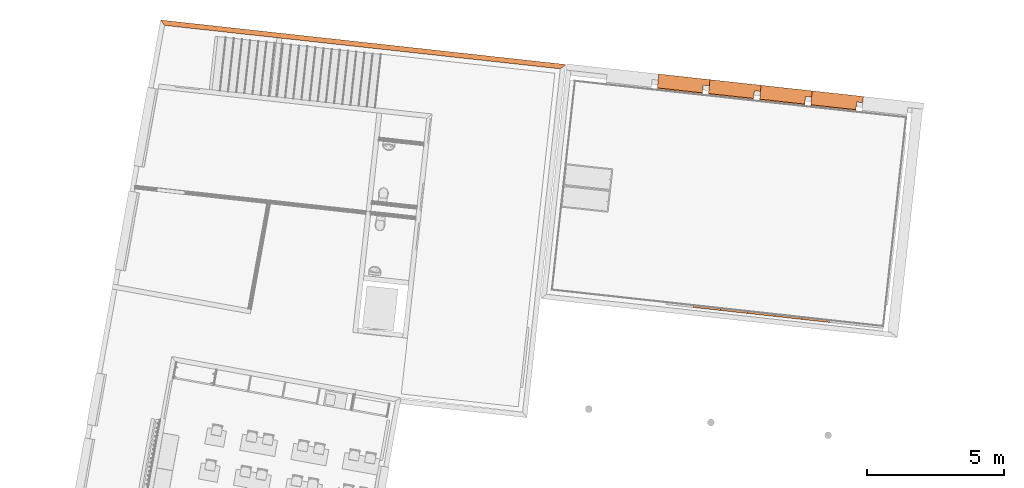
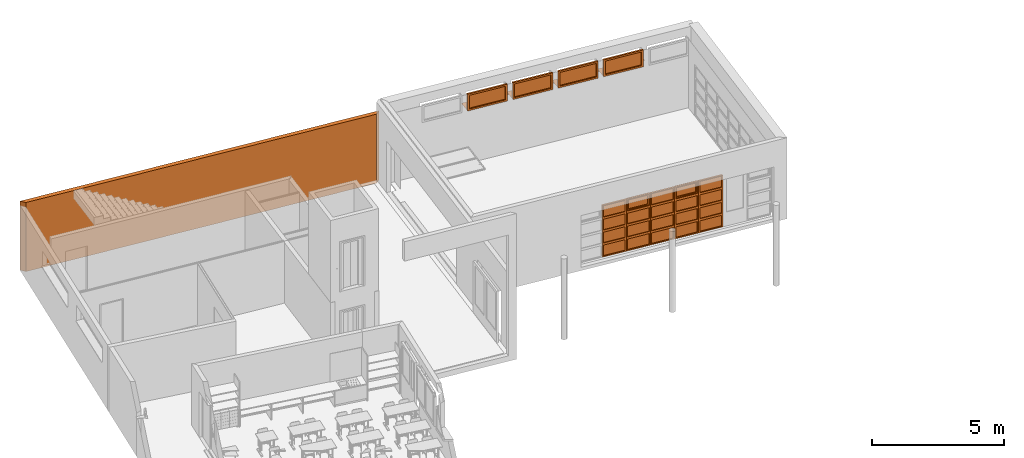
# One storey, part 50 of 79: 10 proxies.
"""IFC2X3 building model written with IfcOpenShell, lengths in metres."""

from ifc_helpers import new_model, entity, si_unit, converted_unit, derived_unit, money_unit, direction, frame, origin_with_axes, place, context, subcontext, project, spatial, polyline, outline, extrude, open_shell, faceted_brep, surface_model, source, transform, mapped, material, type_object, element, save


model = new_model("IFC2X3")

# Units and contexts
model_context = context("Model", 3, precision=1e-05, world=origin_with_axes(), true_north=direction((0.0, 1.0)))
body_context = subcontext(model_context, "Body", "Model", "MODEL_VIEW")
ifc_project = project(units=[si_unit("LENGTHUNIT", "METRE"), si_unit("AREAUNIT", "SQUARE_METRE"), si_unit("VOLUMEUNIT", "CUBIC_METRE"), converted_unit("PLANEANGLEUNIT", "DEGREE", entity("IfcPlaneAngleMeasure", 0.0174532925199), si_unit("PLANEANGLEUNIT", "RADIAN"), dimensions=[0, 0, 0, 0, 0, 0, 0]), money_unit("CHF"), converted_unit("TIMEUNIT", "Year", entity("IfcTimeMeasure", 31556926.0), si_unit("TIMEUNIT", "SECOND"), dimensions=[0, 0, 1, 0, 0, 0, 0]), si_unit("MASSUNIT", "GRAM", prefix="KILO"), si_unit("THERMODYNAMICTEMPERATUREUNIT", "DEGREE_CELSIUS"), si_unit("LUMINOUSINTENSITYUNIT", "LUMEN"), si_unit("ENERGYUNIT", "JOULE", prefix="MEGA"), derived_unit("THERMALCONDUCTANCEUNIT", [(si_unit("POWERUNIT", "WATT"), 1), (si_unit("LENGTHUNIT", "METRE"), -1), (si_unit("THERMODYNAMICTEMPERATUREUNIT", "KELVIN"), -1)]), derived_unit("SPECIFICHEATCAPACITYUNIT", [(si_unit("ENERGYUNIT", "JOULE"), 1), (si_unit("MASSUNIT", "GRAM", prefix="KILO"), -1), (si_unit("THERMODYNAMICTEMPERATUREUNIT", "KELVIN"), -1)]), derived_unit("MASSDENSITYUNIT", [(si_unit("MASSUNIT", "GRAM", prefix="KILO"), 1), (si_unit("VOLUMEUNIT", "CUBIC_METRE"), -1)])], contexts=[model_context])

# Site, building, storey
site_placement = place(None, frame((0.0, 0.0, 0.0), z_axis=(0.0, 0.0, 1.0), x_axis=(-0.177771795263, -0.984071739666, 0.0)))
site = spatial("IfcSite", under=ifc_project, at=site_placement, Name="Site", CompositionType="ELEMENT")
building_placement = place(site_placement, origin_with_axes())
building = spatial("IfcBuilding", under=site, at=building_placement, Name="Bâtiment", CompositionType="ELEMENT")
storey_placement = place(building_placement, origin_with_axes())
storey = spatial("IfcBuildingStorey", under=building, at=storey_placement, Name="RDC", CompositionType="ELEMENT", Elevation=0.0)

# Proxies
ifc_material_1 = material(Name="Matériau de construction IFC")
building_element_proxy_type_1 = type_object("IfcBuildingElementProxyType", Name="Fenêtre variable 21", PredefinedType="NOTDEFINED")
shared_shape_1 = source(origin_with_axes(), body_context, "Body", "SurfaceModel", [
    surface_model("IfcShellBasedSurfaceModel", [(0.0, 0.284, 0.02), (0.0, 0.284, 0.01), (1.66, 0.284, 0.01), (1.66, 0.284, 0.02), (0.0, 0.0, 1.551028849e-05), (-0.22, 0.0, 1.551028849e-05), (-0.22, -0.225, -0.00789473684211), (1.66, -0.225, -0.00789473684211), (-0.22, -0.225, -0.0378947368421), (1.66, -0.225, -0.0378947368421), (-0.22, -0.21, -0.0228947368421), (1.66, -0.21, -0.0228947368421)], [open_shell([[[0, 1, 2, 3]], [[1, 4, 5, 6, 7, 2]], [[8, 9, 7, 6]], [[10, 11, 9, 8]]])]),
    faceted_brep([(0.075, 0.285, 0.705), (0.075, 0.36, 0.705), (0.0, 0.36, 0.705), (0.0, 0.285, 0.705), (0.075, 0.285, 0.075), (0.075, 0.36, 0.075), (0.0, 0.36, 0.075), (0.0, 0.285, 0.075)], [[[0, 1, 2, 3]], [[4, 5, 1, 0]], [[1, 5, 6, 2]], [[3, 2, 6, 7]], [[0, 3, 7, 4]], [[7, 6, 5, 4]]]),
    faceted_brep([(1.585, 0.285, 0.075), (1.585, 0.36, 0.075), (1.66, 0.36, 0.075), (1.66, 0.285, 0.075), (1.585, 0.285, 0.705), (1.585, 0.36, 0.705), (1.66, 0.36, 0.705), (1.66, 0.285, 0.705)], [[[0, 1, 2, 3]], [[4, 5, 1, 0]], [[1, 5, 6, 2]], [[3, 2, 6, 7]], [[0, 3, 7, 4]], [[7, 6, 5, 4]]]),
    faceted_brep([(0.075, 0.285, 0.075), (0.075, 0.36, 0.075), (0.0, 0.36, 0.075), (0.0, 0.285, 0.075), (1.585, 0.285, 0.075), (1.585, 0.36, 0.075), (1.66, 0.36, 0.075), (1.66, 0.36, 0.0), (0.0, 0.36, 0.0), (0.0, 0.285, 0.0), (1.66, 0.285, 0.0), (1.66, 0.285, 0.075)], [[[0, 1, 2, 3]], [[4, 5, 1, 0]], [[1, 5, 6, 7, 8, 2]], [[3, 2, 8, 9]], [[0, 3, 9, 10, 11, 4]], [[11, 6, 5, 4]], [[10, 7, 6, 11]], [[9, 8, 7, 10]]]),
    faceted_brep([(1.585, 0.285, 0.705), (1.585, 0.36, 0.705), (1.66, 0.36, 0.705), (1.66, 0.285, 0.705), (0.075, 0.285, 0.705), (0.075, 0.36, 0.705), (0.0, 0.36, 0.705), (0.0, 0.36, 0.78), (1.66, 0.36, 0.78), (1.66, 0.285, 0.78), (0.0, 0.285, 0.78), (0.0, 0.285, 0.705)], [[[0, 1, 2, 3]], [[4, 5, 1, 0]], [[1, 5, 6, 7, 8, 2]], [[3, 2, 8, 9]], [[0, 3, 9, 10, 11, 4]], [[11, 6, 5, 4]], [[10, 7, 6, 11]], [[9, 8, 7, 10]]]),
    surface_model("IfcShellBasedSurfaceModel", [(0.075, 0.285, 0.075), (1.585, 0.285, 0.075), (1.585, 0.285, 0.705), (0.075, 0.285, 0.705)], [open_shell([[[0, 1, 2, 3]]])]),
    surface_model("IfcShellBasedSurfaceModel", [(0.075, 0.305, 0.075), (0.075, 0.305, 0.705), (1.585, 0.305, 0.705), (1.585, 0.305, 0.075)], [open_shell([[[0, 1, 2, 3]]])]),
])
for number, where, z_axis, x_axis, name in (
    (1, (96.7166696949, -139.281170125, 2.42), (0.0, 0.0, 1.0), (0.0692640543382, -0.997598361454, 0.0), "Fen salle-pluri-Nord"),
    (2, (96.5864532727, -137.405685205, 2.42), (0.0, 0.0, 1.0), (0.0692640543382, -0.997598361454, 0.0), "Fen salle-pluri-Nord"),
    (3, (96.4562368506, -135.530200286, 2.42), (0.0, 0.0, 1.0), (0.0692640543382, -0.997598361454, 0.0), "Fen salle-pluri-Nord"),
    (4, (96.3260204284, -133.654715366, 2.42), (0.0, 0.0, 1.0), (0.0692640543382, -0.997598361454, 0.0), "Fen salle-pluri-Nord"),
):
    element("IfcBuildingElementProxy", number, at=place(storey_placement, frame(where, z_axis=z_axis, x_axis=x_axis)), inside=storey, type_object=building_element_proxy_type_1, material=ifc_material_1, Name=name, context=body_context, shape_type="MappedRepresentation", body=[
        mapped(shared_shape_1, transform((0.0, 0.0, 0.0))),
    ])
ifc_material_2 = material(Name="_BA banché RAL9007")
building_element_proxy_type_2 = type_object("IfcBuildingElementProxyType", Name="_M ext 18 +18 gris 360", PredefinedType="NOTDEFINED")
proxy_placement = place(storey_placement, frame((97.9003562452, -159.217107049, -0.15), z_axis=(0.0, 0.0, 1.0), x_axis=(-0.0692640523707, 0.997598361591, 0.0)))
element("IfcBuildingElementProxy", 5, at=proxy_placement, inside=storey, type_object=building_element_proxy_type_2, material=ifc_material_2, Name="M ext-Nord", context=body_context, shape_type="SweptSolid", body=[
    extrude(outline(polyline([(0.167935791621, -0.18), (14.7105297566, -0.18), (14.8905297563, 0.0), (0.0, 0.0), (0.167935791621, -0.18)])), origin_with_axes(), (0.0, 0.0, 1.0), 3.2),
])
building_element_proxy_type_3 = type_object("IfcBuildingElementProxyType", Name="Fenêtre verticale à châssis multiples 21", PredefinedType="NOTDEFINED")
shared_shape_2 = source(origin_with_axes(), body_context, "Body", "SurfaceModel", [
    faceted_brep([(0.95, 0.285, 2.37), (1.0, 0.285, 2.37), (1.0, 0.36, 2.37), (0.95, 0.36, 2.37), (0.95, 0.285, 1.85), (0.95, 0.285, 1.75), (0.95, 0.285, 1.25), (0.95, 0.285, 1.15), (0.95, 0.285, 0.65), (0.95, 0.285, 0.55), (0.95, 0.285, 0.05), (1.0, 0.285, 0.05), (1.0, 0.36, 0.05), (0.95, 0.36, 0.05), (0.95, 0.36, 0.55), (0.95, 0.36, 0.65), (0.95, 0.36, 1.15), (0.95, 0.36, 1.25), (0.95, 0.36, 1.75), (0.95, 0.36, 1.85)], [[[0, 1, 2, 3]], [[0, 4, 5, 6, 7, 8, 9, 10, 11, 1]], [[1, 11, 12, 2]], [[3, 2, 12, 13, 14, 15, 16, 17, 18, 19]], [[4, 0, 3, 19]], [[5, 4, 19, 18]], [[6, 5, 18, 17]], [[7, 6, 17, 16]], [[8, 7, 16, 15]], [[9, 8, 15, 14]], [[10, 9, 14, 13]], [[11, 10, 13, 12]]]),
    faceted_brep([(0.05, 0.285, 1.85), (0.05, 0.285, 1.75), (0.05, 0.36, 1.75), (0.05, 0.36, 1.85), (0.05, 0.285, 2.37), (0.0, 0.285, 2.37), (0.0, 0.285, 0.05), (0.05, 0.285, 0.05), (0.05, 0.285, 0.55), (0.05, 0.285, 0.65), (0.05, 0.285, 1.15), (0.05, 0.285, 1.25), (0.05, 0.36, 1.25), (0.05, 0.36, 1.15), (0.05, 0.36, 0.65), (0.05, 0.36, 0.55), (0.05, 0.36, 0.05), (0.0, 0.36, 0.05), (0.0, 0.36, 2.37), (0.05, 0.36, 2.37)], [[[0, 1, 2, 3]], [[0, 4, 5, 6, 7, 8, 9, 10, 11, 1]], [[1, 11, 12, 2]], [[3, 2, 12, 13, 14, 15, 16, 17, 18, 19]], [[4, 0, 3, 19]], [[5, 4, 19, 18]], [[6, 5, 18, 17]], [[7, 6, 17, 16]], [[8, 7, 16, 15]], [[9, 8, 15, 14]], [[10, 9, 14, 13]], [[11, 10, 13, 12]]]),
    faceted_brep([(0.05, 0.285, 2.37), (0.0, 0.285, 2.37), (0.0, 0.36, 2.37), (0.05, 0.36, 2.37), (0.95, 0.285, 2.37), (1.0, 0.285, 2.37), (1.0, 0.285, 2.4), (0.0, 0.285, 2.4), (0.0, 0.36, 2.4), (1.0, 0.36, 2.4), (1.0, 0.36, 2.37), (0.95, 0.36, 2.37)], [[[0, 1, 2, 3]], [[0, 4, 5, 6, 7, 1]], [[1, 7, 8, 2]], [[3, 2, 8, 9, 10, 11]], [[4, 0, 3, 11]], [[5, 4, 11, 10]], [[6, 5, 10, 9]], [[7, 6, 9, 8]]]),
    faceted_brep([(0.95, 0.285, 0.05), (1.0, 0.285, 0.05), (1.0, 0.36, 0.05), (0.95, 0.36, 0.05), (0.05, 0.285, 0.05), (0.0, 0.285, 0.05), (0.0, 0.285, 0.0), (1.0, 0.285, 0.0), (1.0, 0.36, 0.0), (0.0, 0.36, 0.0), (0.0, 0.36, 0.05), (0.05, 0.36, 0.05)], [[[0, 1, 2, 3]], [[0, 4, 5, 6, 7, 1]], [[1, 7, 8, 2]], [[3, 2, 8, 9, 10, 11]], [[4, 0, 3, 11]], [[5, 4, 11, 10]], [[6, 5, 10, 9]], [[7, 6, 9, 8]]]),
    faceted_brep([(0.05, 0.285, 0.65), (0.95, 0.285, 0.65), (0.95, 0.36, 0.65), (0.05, 0.36, 0.65), (0.05, 0.285, 0.55), (0.95, 0.285, 0.55), (0.95, 0.36, 0.55), (0.05, 0.36, 0.55)], [[[0, 1, 2, 3]], [[0, 4, 5, 1]], [[1, 5, 6, 2]], [[3, 2, 6, 7]], [[4, 0, 3, 7]], [[5, 4, 7, 6]]]),
    faceted_brep([(0.05, 0.285, 1.25), (0.95, 0.285, 1.25), (0.95, 0.36, 1.25), (0.05, 0.36, 1.25), (0.05, 0.285, 1.15), (0.95, 0.285, 1.15), (0.95, 0.36, 1.15), (0.05, 0.36, 1.15)], [[[0, 1, 2, 3]], [[0, 4, 5, 1]], [[1, 5, 6, 2]], [[3, 2, 6, 7]], [[4, 0, 3, 7]], [[5, 4, 7, 6]]]),
    faceted_brep([(0.05, 0.285, 1.85), (0.95, 0.285, 1.85), (0.95, 0.36, 1.85), (0.05, 0.36, 1.85), (0.05, 0.285, 1.75), (0.95, 0.285, 1.75), (0.95, 0.36, 1.75), (0.05, 0.36, 1.75)], [[[0, 1, 2, 3]], [[0, 4, 5, 1]], [[1, 5, 6, 2]], [[3, 2, 6, 7]], [[4, 0, 3, 7]], [[5, 4, 7, 6]]]),
    surface_model("IfcShellBasedSurfaceModel", [(0.95, 0.3125, 0.05), (0.95, 0.3125, 0.55), (0.05, 0.3125, 0.55), (0.05, 0.3125, 0.05)], [open_shell([[[0, 1, 2, 3]]])]),
    surface_model("IfcShellBasedSurfaceModel", [(0.95, 0.3325, 0.05), (0.05, 0.3325, 0.05), (0.05, 0.3325, 0.55), (0.95, 0.3325, 0.55)], [open_shell([[[0, 1, 2, 3]]])]),
    surface_model("IfcShellBasedSurfaceModel", [(0.95, 0.3125, 0.65), (0.95, 0.3125, 1.15), (0.05, 0.3125, 1.15), (0.05, 0.3125, 0.65)], [open_shell([[[0, 1, 2, 3]]])]),
    surface_model("IfcShellBasedSurfaceModel", [(0.95, 0.3325, 0.65), (0.05, 0.3325, 0.65), (0.05, 0.3325, 1.15), (0.95, 0.3325, 1.15)], [open_shell([[[0, 1, 2, 3]]])]),
    surface_model("IfcShellBasedSurfaceModel", [(0.95, 0.3125, 1.25), (0.95, 0.3125, 1.75), (0.05, 0.3125, 1.75), (0.05, 0.3125, 1.25)], [open_shell([[[0, 1, 2, 3]]])]),
    surface_model("IfcShellBasedSurfaceModel", [(0.95, 0.3325, 1.25), (0.05, 0.3325, 1.25), (0.05, 0.3325, 1.75), (0.95, 0.3325, 1.75)], [open_shell([[[0, 1, 2, 3]]])]),
    surface_model("IfcShellBasedSurfaceModel", [(0.95, 0.3125, 1.85), (0.95, 0.3125, 2.37), (0.05, 0.3125, 2.37), (0.05, 0.3125, 1.85)], [open_shell([[[0, 1, 2, 3]]])]),
    surface_model("IfcShellBasedSurfaceModel", [(0.95, 0.3325, 1.85), (0.05, 0.3325, 1.85), (0.05, 0.3325, 2.37), (0.95, 0.3325, 2.37)], [open_shell([[[0, 1, 2, 3]]])]),
])
for number, where, z_axis, x_axis, name in (
    (6, (105.060478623, -138.180600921, 0.0), (0.0, 0.0, 1.0), (-0.0692640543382, 0.997598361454, 0.0), "Baie salle-pluri-Sud -detail-"),
    (7, (104.921950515, -136.185404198, 0.0), (0.0, 0.0, 1.0), (-0.0692640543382, 0.997598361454, 0.0), "Baie salle-pluri-Sud -detail-"),
    (8, (104.783422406, -134.190207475, 0.0), (0.0, 0.0, 1.0), (-0.0692640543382, 0.997598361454, 0.0), "Baie salle-pluri-Sud -detail-"),
):
    element("IfcBuildingElementProxy", number, at=place(storey_placement, frame(where, z_axis=z_axis, x_axis=x_axis)), inside=storey, type_object=building_element_proxy_type_3, material=ifc_material_1, Name=name, context=body_context, shape_type="MappedRepresentation", body=[
        mapped(shared_shape_2, transform((0.0, 0.0, 0.0))),
    ])
shared_shape_3 = source(origin_with_axes(), body_context, "Body", "SurfaceModel", [
    faceted_brep([(0.96, 0.36, 2.37), (0.96, 0.3225, 2.37), (0.95, 0.3225, 2.37), (0.95, 0.285, 2.37), (1.0, 0.285, 2.37), (1.0, 0.36, 2.37), (0.96, 0.36, 1.84), (0.96, 0.3225, 1.84), (0.95, 0.3225, 1.85), (0.95, 0.3225, 1.84), (0.95, 0.285, 1.85), (0.95, 0.285, 1.75), (0.95, 0.285, 1.25), (0.95, 0.285, 1.15), (0.95, 0.285, 0.65), (0.95, 0.285, 0.55), (0.95, 0.285, 0.05), (1.0, 0.285, 0.05), (1.0, 0.36, 0.05), (0.95, 0.36, 0.05), (0.95, 0.36, 0.55), (0.95, 0.36, 0.65), (0.95, 0.36, 1.15), (0.95, 0.36, 1.25), (0.95, 0.36, 1.75), (0.95, 0.36, 1.84)], [[[0, 1, 2, 3, 4, 5]], [[1, 0, 6, 7]], [[8, 2, 1, 7, 9]], [[2, 8, 10, 3]], [[4, 3, 10, 11, 12, 13, 14, 15, 16, 17]], [[5, 4, 17, 18]], [[6, 0, 5, 18, 19, 20, 21, 22, 23, 24, 25]], [[6, 25, 9, 7]], [[9, 25, 24, 11, 10, 8]], [[23, 12, 11, 24]], [[22, 13, 12, 23]], [[21, 14, 13, 22]], [[20, 15, 14, 21]], [[19, 16, 15, 20]], [[18, 17, 16, 19]]]),
    faceted_brep([(0.05, 0.3225, 2.37), (0.04, 0.3225, 2.37), (0.04, 0.36, 2.37), (0.0, 0.36, 2.37), (0.0, 0.285, 2.37), (0.05, 0.285, 2.37), (0.05, 0.3225, 1.85), (0.05, 0.3225, 1.84), (0.04, 0.3225, 1.84), (0.04, 0.36, 1.84), (0.05, 0.36, 1.84), (0.05, 0.36, 1.75), (0.05, 0.36, 1.25), (0.05, 0.36, 1.15), (0.05, 0.36, 0.65), (0.05, 0.36, 0.55), (0.05, 0.36, 0.05), (0.0, 0.36, 0.05), (0.0, 0.285, 0.05), (0.05, 0.285, 1.75), (0.05, 0.285, 1.85), (0.05, 0.285, 0.05), (0.05, 0.285, 0.55), (0.05, 0.285, 0.65), (0.05, 0.285, 1.15), (0.05, 0.285, 1.25)], [[[0, 1, 2, 3, 4, 5]], [[1, 0, 6, 7, 8]], [[9, 2, 1, 8]], [[9, 10, 11, 12, 13, 14, 15, 16, 17, 3, 2]], [[17, 18, 4, 3]], [[19, 20, 5, 4, 18, 21, 22, 23, 24, 25]], [[6, 0, 5, 20]], [[7, 6, 20, 19, 11, 10]], [[10, 9, 8, 7]], [[11, 19, 25, 12]], [[12, 25, 24, 13]], [[13, 24, 23, 14]], [[14, 23, 22, 15]], [[15, 22, 21, 16]], [[16, 21, 18, 17]]]),
    faceted_brep([(0.96, 0.36, 2.37), (0.96, 0.36, 2.38), (0.04, 0.36, 2.38), (0.04, 0.36, 2.37), (0.0, 0.36, 2.37), (0.0, 0.36, 2.4), (1.0, 0.36, 2.4), (1.0, 0.36, 2.37), (0.96, 0.3225, 2.37), (0.96, 0.3225, 2.38), (0.04, 0.3225, 2.38), (0.04, 0.3225, 2.37), (0.05, 0.3225, 2.37), (0.05, 0.285, 2.37), (0.0, 0.285, 2.37), (0.0, 0.285, 2.4), (1.0, 0.285, 2.4), (1.0, 0.285, 2.37), (0.95, 0.285, 2.37), (0.95, 0.3225, 2.37)], [[[0, 1, 2, 3, 4, 5, 6, 7]], [[1, 0, 8, 9]], [[2, 1, 9, 10]], [[3, 2, 10, 11]], [[11, 12, 13, 14, 4, 3]], [[4, 14, 15, 5]], [[5, 15, 16, 6]], [[6, 16, 17, 7]], [[8, 0, 7, 17, 18, 19]], [[12, 11, 10, 9, 8, 19]], [[12, 19, 18, 13]], [[14, 13, 18, 17, 16, 15]]]),
    faceted_brep([(0.95, 0.3225, 1.85), (0.05, 0.3225, 1.85), (0.05, 0.285, 1.85), (0.95, 0.285, 1.85), (0.05, 0.3225, 1.84), (0.95, 0.3225, 1.84), (0.05, 0.36, 1.84), (0.05, 0.36, 1.75), (0.05, 0.285, 1.75), (0.95, 0.285, 1.75), (0.95, 0.36, 1.75), (0.95, 0.36, 1.84)], [[[0, 1, 2, 3]], [[4, 1, 0, 5]], [[4, 6, 7, 8, 2, 1]], [[3, 2, 8, 9]], [[5, 0, 3, 9, 10, 11]], [[11, 6, 4, 5]], [[6, 11, 10, 7]], [[10, 9, 8, 7]]]),
    faceted_brep([(0.95, 0.285, 0.05), (1.0, 0.285, 0.05), (1.0, 0.36, 0.05), (0.95, 0.36, 0.05), (0.05, 0.285, 0.05), (0.0, 0.285, 0.05), (0.0, 0.285, 0.0), (1.0, 0.285, 0.0), (1.0, 0.36, 0.0), (0.0, 0.36, 0.0), (0.0, 0.36, 0.05), (0.05, 0.36, 0.05)], [[[0, 1, 2, 3]], [[0, 4, 5, 6, 7, 1]], [[1, 7, 8, 2]], [[3, 2, 8, 9, 10, 11]], [[4, 0, 3, 11]], [[5, 4, 11, 10]], [[6, 5, 10, 9]], [[7, 6, 9, 8]]]),
    faceted_brep([(0.05, 0.285, 0.65), (0.95, 0.285, 0.65), (0.95, 0.36, 0.65), (0.05, 0.36, 0.65), (0.05, 0.285, 0.55), (0.95, 0.285, 0.55), (0.95, 0.36, 0.55), (0.05, 0.36, 0.55)], [[[0, 1, 2, 3]], [[0, 4, 5, 1]], [[1, 5, 6, 2]], [[3, 2, 6, 7]], [[4, 0, 3, 7]], [[5, 4, 7, 6]]]),
    faceted_brep([(0.05, 0.285, 1.25), (0.95, 0.285, 1.25), (0.95, 0.36, 1.25), (0.05, 0.36, 1.25), (0.05, 0.285, 1.15), (0.95, 0.285, 1.15), (0.95, 0.36, 1.15), (0.05, 0.36, 1.15)], [[[0, 1, 2, 3]], [[0, 4, 5, 1]], [[1, 5, 6, 2]], [[3, 2, 6, 7]], [[4, 0, 3, 7]], [[5, 4, 7, 6]]]),
    surface_model("IfcShellBasedSurfaceModel", [(0.95, 0.3125, 0.05), (0.95, 0.3125, 0.55), (0.05, 0.3125, 0.55), (0.05, 0.3125, 0.05)], [open_shell([[[0, 1, 2, 3]]])]),
    surface_model("IfcShellBasedSurfaceModel", [(0.95, 0.3325, 0.05), (0.05, 0.3325, 0.05), (0.05, 0.3325, 0.55), (0.95, 0.3325, 0.55)], [open_shell([[[0, 1, 2, 3]]])]),
    surface_model("IfcShellBasedSurfaceModel", [(0.95, 0.3125, 0.65), (0.95, 0.3125, 1.15), (0.05, 0.3125, 1.15), (0.05, 0.3125, 0.65)], [open_shell([[[0, 1, 2, 3]]])]),
    surface_model("IfcShellBasedSurfaceModel", [(0.95, 0.3325, 0.65), (0.05, 0.3325, 0.65), (0.05, 0.3325, 1.15), (0.95, 0.3325, 1.15)], [open_shell([[[0, 1, 2, 3]]])]),
    surface_model("IfcShellBasedSurfaceModel", [(0.95, 0.3125, 1.25), (0.95, 0.3125, 1.75), (0.05, 0.3125, 1.75), (0.05, 0.3125, 1.25)], [open_shell([[[0, 1, 2, 3]]])]),
    surface_model("IfcShellBasedSurfaceModel", [(0.95, 0.3325, 1.25), (0.05, 0.3325, 1.25), (0.05, 0.3325, 1.75), (0.95, 0.3325, 1.75)], [open_shell([[[0, 1, 2, 3]]])]),
    faceted_brep([(0.9, 0.3225, 2.32), (0.96, 0.3225, 2.32), (0.96, 0.3975, 2.32), (0.9, 0.3975, 2.32), (0.9, 0.3225, 1.9), (0.96, 0.3225, 1.9), (0.96, 0.3975, 1.9), (0.9, 0.3975, 1.9)], [[[0, 1, 2, 3]], [[0, 4, 5, 1]], [[1, 5, 6, 2]], [[3, 2, 6, 7]], [[4, 0, 3, 7]], [[5, 4, 7, 6]]]),
    faceted_brep([(0.1, 0.3225, 1.9), (0.04, 0.3225, 1.9), (0.04, 0.3975, 1.9), (0.1, 0.3975, 1.9), (0.1, 0.3225, 2.32), (0.04, 0.3225, 2.32), (0.04, 0.3975, 2.32), (0.1, 0.3975, 2.32)], [[[0, 1, 2, 3]], [[0, 4, 5, 1]], [[1, 5, 6, 2]], [[3, 2, 6, 7]], [[4, 0, 3, 7]], [[5, 4, 7, 6]]]),
    faceted_brep([(0.04, 0.3225, 1.84), (0.04, 0.3225, 1.9), (0.04, 0.3975, 1.9), (0.04, 0.3975, 1.84), (0.96, 0.3225, 1.84), (0.96, 0.3225, 1.9), (0.9, 0.3225, 1.9), (0.1, 0.3225, 1.9), (0.1, 0.3975, 1.9), (0.9, 0.3975, 1.9), (0.96, 0.3975, 1.9), (0.96, 0.3975, 1.84)], [[[0, 1, 2, 3]], [[0, 4, 5, 6, 7, 1]], [[1, 7, 8, 2]], [[3, 2, 8, 9, 10, 11]], [[4, 0, 3, 11]], [[5, 4, 11, 10]], [[6, 5, 10, 9]], [[7, 6, 9, 8]]]),
    faceted_brep([(0.96, 0.3225, 2.38), (0.96, 0.3225, 2.32), (0.96, 0.3975, 2.32), (0.96, 0.3975, 2.38), (0.04, 0.3225, 2.38), (0.04, 0.3225, 2.32), (0.1, 0.3225, 2.32), (0.9, 0.3225, 2.32), (0.9, 0.3975, 2.32), (0.1, 0.3975, 2.32), (0.04, 0.3975, 2.32), (0.04, 0.3975, 2.38)], [[[0, 1, 2, 3]], [[0, 4, 5, 6, 7, 1]], [[1, 7, 8, 2]], [[3, 2, 8, 9, 10, 11]], [[4, 0, 3, 11]], [[5, 4, 11, 10]], [[6, 5, 10, 9]], [[7, 6, 9, 8]]]),
    surface_model("IfcShellBasedSurfaceModel", [(0.9, 0.35, 1.9), (0.9, 0.35, 2.32), (0.1, 0.35, 2.32), (0.1, 0.35, 1.9)], [open_shell([[[0, 1, 2, 3]]])]),
    surface_model("IfcShellBasedSurfaceModel", [(0.9, 0.37, 1.9), (0.1, 0.37, 1.9), (0.1, 0.37, 2.32), (0.9, 0.37, 2.32)], [open_shell([[[0, 1, 2, 3]]])]),
])
for number, where, z_axis, x_axis, name in (
    (9, (104.991214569, -137.183002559, 0.0), (0.0, 0.0, 1.0), (-0.0692640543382, 0.997598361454, 0.0), "Baie salle-pluri-Sud -detail-"),
    (10, (104.85268646, -135.187805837, 0.0), (0.0, 0.0, 1.0), (-0.0692640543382, 0.997598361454, 0.0), "Baie salle-pluri-Sud -detail-"),
):
    element("IfcBuildingElementProxy", number, at=place(storey_placement, frame(where, z_axis=z_axis, x_axis=x_axis)), inside=storey, type_object=building_element_proxy_type_3, material=ifc_material_1, Name=name, context=body_context, shape_type="MappedRepresentation", body=[
        mapped(shared_shape_3, transform((0.0, 0.0, 0.0))),
    ])

save(model, "model.ifc")
